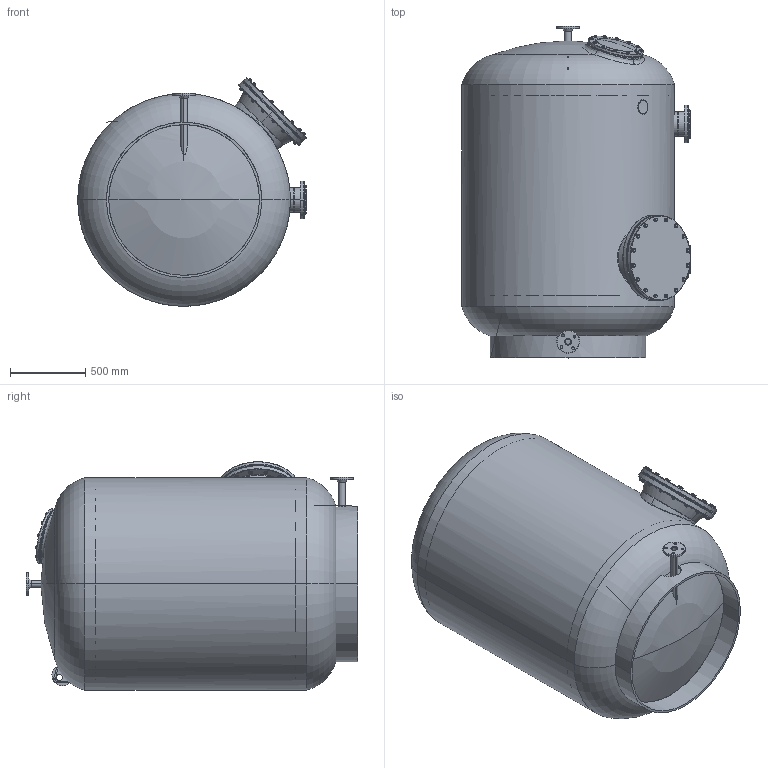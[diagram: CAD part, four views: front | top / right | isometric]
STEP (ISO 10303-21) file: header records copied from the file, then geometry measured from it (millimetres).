
FILE_DESCRIPTION (( 'STEP AP214' ), '1' );
FILE_NAME ('adriatic140c.STEP', '2020-11-04T10:11:25', ( '' ), ( '' ), 'SwSTEP 2.0', 'SolidWorks 2019', '' );
FILE_SCHEMA (( 'AUTOMOTIVE_DESIGN' ));
Length unit declared in the file: millimetre
Products named in the file (1): adriatic140c
Bounding box: 1514.46 x 2200.11 x 1514.04 mm (x, y, z)
Surface area: 24449256.5 mm2 (no closed solid volume)
Topology: 0 solids, 118 shells, 1775 faces, 3942 edges, 2412 vertices
Faces by surface type: cone 581, cylinder 568, plane 529, torus 71, bspline 14, sphere 12
Entity records: 98653 total; most frequent: CARTESIAN_POINT 39794, DIRECTION 7783, ORIENTED_EDGE 7764, EDGE_CURVE 3906, AXIS2_PLACEMENT_3D 3352, VERTEX_POINT 2408, EDGE_LOOP 2138, UNCERTAINTY_MEASURE_WITH_UNIT 1883
